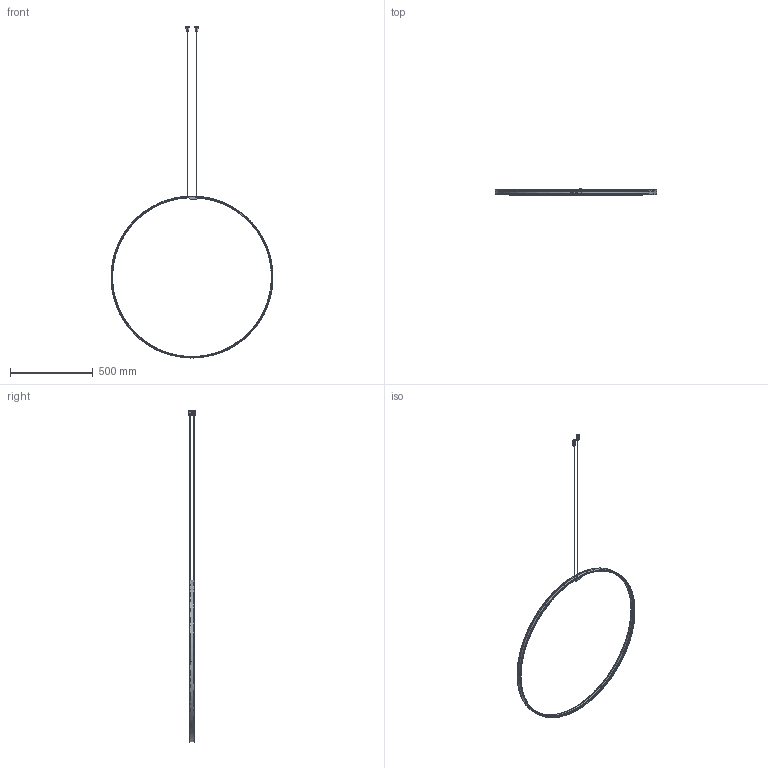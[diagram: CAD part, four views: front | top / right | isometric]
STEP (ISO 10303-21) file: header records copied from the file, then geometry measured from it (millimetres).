
FILE_DESCRIPTION(/* description */ (''),/* implementation_level */ '2;1');
FILE_NAME(/* name */ 'Zero Round Vertical M154__.100',/* time_stamp */ '2025-05-28T10:02:38+02:00',/* author */ (''),/* organization */ (''),/* preprocessor_version */ 'ST-DEVELOPER v16.5',/* originating_system */ '',/* authorisation */ '');
FILE_SCHEMA (('AUTOMOTIVE_DESIGN'));
Length unit declared in the file: millimetre
Products named in the file (7): Document; 3300.0149000.00 (profilo curvo Zero Round Vertical ALL 7,7x30mm D est.
 977mm)_3306.0149360.00; 3100.0027000.00 (schermo estruso Giplast 09PE79 PC 19x3,8mm per curva
 D int. 959mm)_3101.0027360.98; 3200.0200005.00 (copertura giunzione con foro M3 ACC 60,2x18,7mm H 23
mm sp 1)_3209.0200005.00; 5200.0002000.00 (dispositivo regolazione fune OTTONE nichelato con in
nesto maschio M10 L 14mm)_5200.0002000.00; 3300.0298000.00 (manicotto per sospensione singola ALL D 20mm H 32mm 
con foro M10x1)_3302.0298000.00; 5402.0001000.00 (fune ACC 19 fili D 1,2mm con cilindro terminale 3x3m
m)_Disegni
Assembly tree (9 placements, depth 2):
  Document
    3300.0149000.00 (profilo curvo Zero Round Vertical ALL 7,7x30mm D est.
 977mm)_3306.0149360.00
    3100.0027000.00 (schermo estruso Giplast 09PE79 PC 19x3,8mm per curva
 D int. 959mm)_3101.0027360.98
    3200.0200005.00 (copertura giunzione con foro M3 ACC 60,2x18,7mm H 23
mm sp 1)_3209.0200005.00
    5200.0002000.00 (dispositivo regolazione fune OTTONE nichelato con in
nesto maschio M10 L 14mm)_5200.0002000.00  x2
    3300.0298000.00 (manicotto per sospensione singola ALL D 20mm H 32mm 
con foro M10x1)_3302.0298000.00  x2
    5402.0001000.00 (fune ACC 19 fili D 1,2mm con cilindro terminale 3x3m
m)_Disegni  x2
Bounding box: 977 x 44 x 2003.92 mm (x, y, z)
Volume: 530815.6 mm3; surface area: 432994.9 mm2
Topology: 13 solids, 13 shells, 447 faces, 1095 edges, 678 vertices
Faces by surface type: bspline 363, plane 84
Entity records: 23158 total; most frequent: CARTESIAN_POINT 18104, ORIENTED_EDGE 1726, EDGE_CURVE 863, VERTEX_POINT 530, B_SPLINE_CURVE_WITH_KNOTS 388, EDGE_LOOP 369, ADVANCED_FACE 350, FACE_OUTER_BOUND 350
